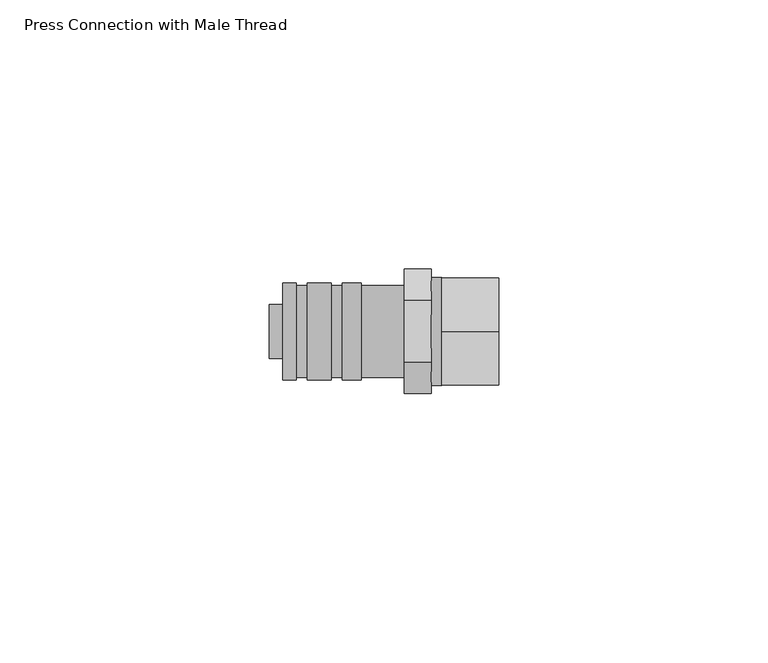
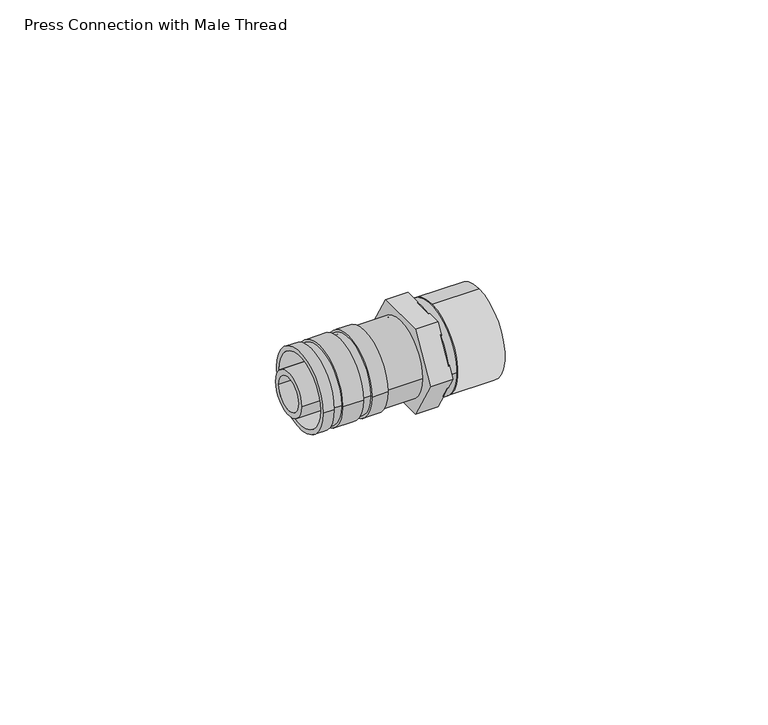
"""IFC4 building model written with IfcOpenShell, lengths in millimetres: pipe fitting geometry, Press Connection with Male Thread : Superpipe Press Connection - 16x½” MT."""

from ifc_helpers import new_model, si_unit, point, frame, origin, origin_2d, place, context, project, spatial, polyline, circle_curve, trimmed, segment, composite_curve, outline, extrude, source, transform, mapped, element, save
from ifc_brep_helpers import plane_surface, cylinder_surface, revolved_surface, advanced_brep


def press_connection_with_male_thread_ee4fe83c(model_context):
    return source(origin(), model_context, "Body", "SolidModel", [
        extrude(outline(composite_curve([segment(trimmed(circle_curve(origin_2d(), 10.0), [point((0.0, -10.0))], [point((0.0, 10.0))], False, "CARTESIAN"), True, "CONTINUOUS"), segment(trimmed(circle_curve(origin_2d(), 10.0), [point((0.0, 10.0))], [point((0.0, -10.0))], False, "CARTESIAN"), True, "CONTINUOUS")], self_intersect=False), holes=[composite_curve([segment(trimmed(circle_curve(origin_2d(), 7.0), [point((0.0, -7.0))], [point((0.0, 7.0))], True, "CARTESIAN"), True, "CONTINUOUS"), segment(trimmed(circle_curve(origin_2d(), 7.0), [point((0.0, 7.0))], [point((0.0, -7.0))], True, "CARTESIAN"), True, "CONTINUOUS")], self_intersect=False)]), frame((32.0, 0.0, 0.0), z_axis=(1.0, 0.0, 0.0), x_axis=(0.0, 1.0, 0.0)), (0.0, 0.0, 1.0), 10.5),
        advanced_brep(
        [(2.5, 9.0, 0.0), (2.5, -9.0, 0.0), (2.5, 8.0, 0.0), (2.5, -8.0, 0.0), (25.0, -8.5, 0.0), (25.0, 8.5, 0.0), (25.0, 8.0, 0.0), (25.0, -8.0, 0.0), (5.0, 9.0, 0.0), (5.0, -9.0, 0.0), (17.0, 9.0, 0.0), (17.0, -9.0, 0.0), (13.5, -9.0, 0.0), (13.5, 9.0, 0.0), (11.5, 9.0, 0.0), (11.5, -9.0, 0.0), (7.0, -9.0, 0.0), (7.0, 9.0, 0.0), (17.0, 8.5, 0.0), (17.0, -8.5, 0.0), (13.5, -8.5, 0.0), (13.5, 8.5, 0.0), (11.5, 8.5, 0.0), (11.5, -8.5, 0.0), (7.0, -8.5, 0.0), (7.0, 8.5, 0.0), (5.0, 8.5, 0.0), (5.0, -8.5, 0.0)],
        [
            (0, 1, circle_curve(frame((2.5, 0.0, 0.0), z_axis=(-1.0, 0.0, 0.0), x_axis=(0.0, -1.0, 0.0)), 9.0)),
            (1, 0, circle_curve(frame((2.5, 0.0, 0.0), z_axis=(-1.0, 0.0, 0.0), x_axis=(0.0, -1.0, 0.0)), 9.0)),
            (2, 3, circle_curve(frame((2.5, 0.0, 0.0), z_axis=(1.0, 0.0, 0.0), x_axis=(0.0, -1.0, 0.0)), 8.0)),
            (3, 2, circle_curve(frame((2.5, 0.0, 0.0), z_axis=(1.0, 0.0, 0.0), x_axis=(0.0, -1.0, 0.0)), 8.0)),
            (4, 5, circle_curve(frame((25.0, 0.0, 0.0), z_axis=(1.0, 0.0, 0.0), x_axis=(0.0, 1.0, 0.0)), 8.5)),
            (5, 4, circle_curve(frame((25.0, 0.0, 0.0), z_axis=(1.0, 0.0, 0.0), x_axis=(0.0, 1.0, 0.0)), 8.5)),
            (6, 7, circle_curve(frame((25.0, 0.0, 0.0), z_axis=(-1.0, 0.0, 0.0), x_axis=(0.0, -1.0, 0.0)), 8.0)),
            (7, 6, circle_curve(frame((25.0, 0.0, 0.0), z_axis=(-1.0, 0.0, 0.0), x_axis=(0.0, -1.0, 0.0)), 8.0)),
            (0, 8),
            (8, 9, circle_curve(frame((5.0, 0.0, 0.0), z_axis=(-1.0, 0.0, 0.0), x_axis=(0.0, -1.0, 0.0)), 9.0)),
            (9, 1),
            (10, 11, circle_curve(frame((17.0, 0.0, 0.0), z_axis=(-1.0, 0.0, 0.0), x_axis=(0.0, -1.0, 0.0)), 9.0)),
            (11, 12),
            (12, 13, circle_curve(frame((13.5, 0.0, 0.0), z_axis=(1.0, 0.0, 0.0), x_axis=(0.0, -1.0, 0.0)), 9.0)),
            (13, 10),
            (14, 15, circle_curve(frame((11.5, 0.0, 0.0), z_axis=(-1.0, 0.0, 0.0), x_axis=(0.0, -1.0, 0.0)), 9.0)),
            (15, 16),
            (16, 17, circle_curve(frame((7.0, 0.0, 0.0), z_axis=(1.0, 0.0, 0.0), x_axis=(0.0, -1.0, 0.0)), 9.0)),
            (17, 14),
            (9, 8, circle_curve(frame((5.0, 0.0, 0.0), z_axis=(-1.0, 0.0, 0.0), x_axis=(0.0, -1.0, 0.0)), 9.0)),
            (11, 10, circle_curve(frame((17.0, 0.0, 0.0), z_axis=(-1.0, 0.0, 0.0), x_axis=(0.0, -1.0, 0.0)), 9.0)),
            (13, 12, circle_curve(frame((13.5, 0.0, 0.0), z_axis=(1.0, 0.0, 0.0), x_axis=(0.0, -1.0, 0.0)), 9.0)),
            (15, 14, circle_curve(frame((11.5, 0.0, 0.0), z_axis=(-1.0, 0.0, 0.0), x_axis=(0.0, -1.0, 0.0)), 9.0)),
            (17, 16, circle_curve(frame((7.0, 0.0, 0.0), z_axis=(1.0, 0.0, 0.0), x_axis=(0.0, -1.0, 0.0)), 9.0)),
            (2, 6),
            (7, 3),
            (18, 19, circle_curve(frame((17.0, 0.0, 0.0), z_axis=(-1.0, 0.0, 0.0), x_axis=(0.0, 1.0, 0.0)), 8.5)),
            (19, 11),
            (10, 18),
            (19, 18, circle_curve(frame((17.0, 0.0, 0.0), z_axis=(-1.0, 0.0, 0.0), x_axis=(0.0, 1.0, 0.0)), 8.5)),
            (18, 5),
            (4, 19),
            (20, 21, circle_curve(frame((13.5, 0.0, 0.0), z_axis=(1.0, 0.0, 0.0), x_axis=(0.0, 1.0, 0.0)), 8.5)),
            (21, 13),
            (12, 20),
            (21, 20, circle_curve(frame((13.5, 0.0, 0.0), z_axis=(1.0, 0.0, 0.0), x_axis=(0.0, 1.0, 0.0)), 8.5)),
            (22, 23, circle_curve(frame((11.5, 0.0, 0.0), z_axis=(-1.0, 0.0, 0.0), x_axis=(0.0, 1.0, 0.0)), 8.5)),
            (23, 15),
            (14, 22),
            (23, 22, circle_curve(frame((11.5, 0.0, 0.0), z_axis=(-1.0, 0.0, 0.0), x_axis=(0.0, 1.0, 0.0)), 8.5)),
            (20, 23),
            (22, 21),
            (24, 25, circle_curve(frame((7.0, 0.0, 0.0), z_axis=(1.0, 0.0, 0.0), x_axis=(0.0, 1.0, 0.0)), 8.5)),
            (25, 17),
            (16, 24),
            (25, 24, circle_curve(frame((7.0, 0.0, 0.0), z_axis=(1.0, 0.0, 0.0), x_axis=(0.0, 1.0, 0.0)), 8.5)),
            (26, 27, circle_curve(frame((5.0, 0.0, 0.0), z_axis=(-1.0, 0.0, 0.0), x_axis=(0.0, 1.0, 0.0)), 8.5)),
            (27, 9),
            (8, 26),
            (27, 26, circle_curve(frame((5.0, 0.0, 0.0), z_axis=(-1.0, 0.0, 0.0), x_axis=(0.0, 1.0, 0.0)), 8.5)),
            (24, 27),
            (26, 25),
        ],
        [
            plane_surface(frame((2.5, -9.0, 0.0), z_axis=(-1.0, 0.0, 0.0), x_axis=(0.0, 0.0, 1.0))),
            plane_surface(frame((25.0, -9.0, 0.0), z_axis=(1.0, 0.0, 0.0), x_axis=(0.0, 0.0, -1.0))),
            cylinder_surface(frame((25.0, 0.0, 0.0), z_axis=(-1.0, 0.0, 0.0), x_axis=(0.0, -1.0, 0.0)), 9.0),
            revolved_surface(polyline([(25.0, -8.0, 0.0), (2.5, -8.0, 0.0)]), (25.0, 0.0, 0.0), (1.0, 0.0, 0.0)),
            plane_surface(frame((17.0, 0.0, 0.0), z_axis=(1.0, 0.0, 0.0), x_axis=(0.0, 1.0, 0.0))),
            cylinder_surface(frame((1980.5, 0.0, 0.0), z_axis=(-1.0, 0.0, 0.0), x_axis=(0.0, 1.0, 0.0)), 8.5),
            plane_surface(frame((13.5, 0.0, 0.0), z_axis=(-1.0, 0.0, 0.0), x_axis=(0.0, 1.0, 0.0))),
            plane_surface(frame((11.5, 0.0, 0.0), z_axis=(1.0, 0.0, 0.0), x_axis=(0.0, 1.0, 0.0))),
            plane_surface(frame((7.0, 0.0, 0.0), z_axis=(-1.0, 0.0, 0.0), x_axis=(0.0, 1.0, 0.0))),
            plane_surface(frame((5.0, 0.0, 0.0), z_axis=(1.0, 0.0, 0.0), x_axis=(0.0, 1.0, 0.0))),
        ],
        [
            (0, [[1, 2], [3, 4]]),
            (1, [[5, 6], [7, 8]]),
            (2, [[-1, 9, 10, 11]]),
            (2, [[12, 13, 14, 15]]),
            (2, [[16, 17, 18, 19]]),
            (2, [[-2, -11, 20, -9]]),
            (2, [[21, -15, 22, -13]]),
            (2, [[23, -19, 24, -17]]),
            (3, [[-3, 25, -8, 26]]),
            (3, [[-4, -26, -7, -25]]),
            (4, [[27, 28, -12, 29]]),
            (4, [[30, -29, -21, -28]]),
            (5, [[-27, 31, -5, 32]]),
            (5, [[-30, -32, -6, -31]]),
            (6, [[33, 34, -14, 35]]),
            (6, [[36, -35, -22, -34]]),
            (7, [[37, 38, -16, 39]]),
            (7, [[40, -39, -23, -38]]),
            (5, [[-33, 41, -37, 42]]),
            (5, [[-36, -42, -40, -41]]),
            (8, [[43, 44, -18, 45]]),
            (8, [[46, -45, -24, -44]]),
            (9, [[47, 48, -10, 49]]),
            (9, [[50, -49, -20, -48]]),
            (5, [[-43, 51, -47, 52]]),
            (5, [[-46, -52, -50, -51]]),
        ],
    ),
        extrude(outline(composite_curve([segment(trimmed(circle_curve(origin_2d(), 10.0), [point((-10.0, 0.0))], [point((10.0, 0.0))], False, "CARTESIAN"), True, "CONTINUOUS"), segment(trimmed(circle_curve(origin_2d(), 10.0), [point((10.0, 0.0))], [point((-10.0, 0.0))], False, "CARTESIAN"), True, "CONTINUOUS")], self_intersect=False), holes=[composite_curve([segment(trimmed(circle_curve(origin_2d(), 7.0), [point((-7.0, 0.0))], [point((7.0, 0.0))], True, "CARTESIAN"), True, "CONTINUOUS"), segment(trimmed(circle_curve(origin_2d(), 7.0), [point((7.0, 0.0))], [point((-7.0, 0.0))], True, "CARTESIAN"), True, "CONTINUOUS")], self_intersect=False)]), frame((30.0, 0.0, 0.0), z_axis=(1.0, 0.0, 0.0), x_axis=(0.0, 1.0, 0.0)), (0.0, 0.0, 1.0), 2.0),
        extrude(outline(polyline([(-11.5470054, 0.0), (-5.7735027, 10.0), (5.7735027, 10.0), (11.5470054, 0.0), (5.7735027, -10.0), (-5.7735027, -10.0), (-11.5470054, 0.0)]), holes=[composite_curve([segment(trimmed(circle_curve(origin_2d(), 3.8), [point((3.8, 0.0))], [point((-3.8, 0.0))], True, "CARTESIAN"), True, "CONTINUOUS"), segment(trimmed(circle_curve(origin_2d(), 3.8), [point((-3.8, 0.0))], [point((3.8, 0.0))], True, "CARTESIAN"), True, "CONTINUOUS")], self_intersect=False)]), frame((25.0, 0.0, 0.0), z_axis=(1.0, 0.0, 0.0), x_axis=(0.0, 1.0, 0.0)), (0.0, 0.0, 1.0), 5.0),
        extrude(outline(composite_curve([segment(trimmed(circle_curve(origin_2d(), 5.0), [point((-5.0, 0.0))], [point((5.0, 0.0))], False, "CARTESIAN"), True, "CONTINUOUS"), segment(trimmed(circle_curve(origin_2d(), 5.0), [point((5.0, 0.0))], [point((-5.0, 0.0))], False, "CARTESIAN"), True, "CONTINUOUS")], self_intersect=False), holes=[composite_curve([segment(trimmed(circle_curve(origin_2d(), 3.8), [point((3.8, 0.0))], [point((-3.8, 0.0))], True, "CARTESIAN"), True, "CONTINUOUS"), segment(trimmed(circle_curve(origin_2d(), 3.8), [point((-3.8, 0.0))], [point((3.8, 0.0))], True, "CARTESIAN"), True, "CONTINUOUS")], self_intersect=False)]), frame((0.0, 0.0, 0.0), z_axis=(1.0, 0.0, 0.0), x_axis=(0.0, 1.0, 0.0)), (0.0, 0.0, 1.0), 25.0),
    ])


if __name__ == "__main__":
    model = new_model("IFC4")
    model_context = context("Model", 3, world=origin())
    ifc_project = project(units=[si_unit("LENGTHUNIT", "METRE", prefix="MILLI")], contexts=[model_context])
    site = spatial("IfcSite", under=ifc_project)
    building = spatial("IfcBuilding", under=site)
    placement = place(None, origin())
    press_connection_with_male_thread_shape = press_connection_with_male_thread_ee4fe83c(model_context)
    element("IfcPipeFitting", 1, ObjectType="Press Connection with Male Thread : Superpipe Press Connection - 16x½” MT", at=placement, inside=building, context=model_context, shape_type="MappedRepresentation", body=[
        mapped(press_connection_with_male_thread_shape, transform((0.0, 0.0, 0.0), x_axis=(1.0, 0.0, 0.0), y_axis=(0.0, 1.0, 0.0), z_axis=(0.0, 0.0, 1.0))),
    ])
    save(model, "model.ifc")
